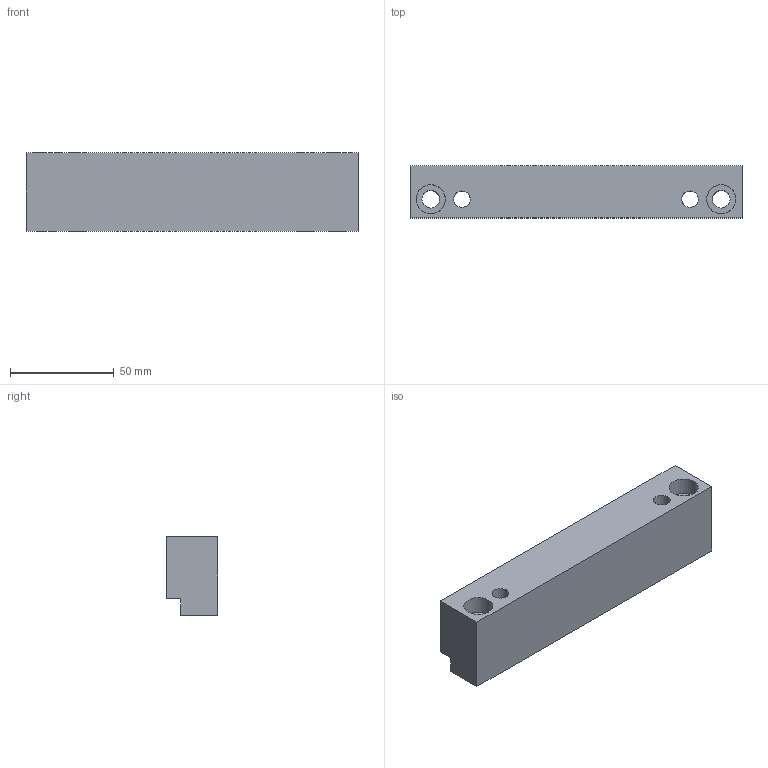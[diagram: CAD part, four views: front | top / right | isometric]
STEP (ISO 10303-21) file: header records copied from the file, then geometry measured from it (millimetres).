
FILE_DESCRIPTION(('CATIA V5 STEP Exchange'),'2;1');
FILE_NAME('C:\Users\Utente\Desktop\3D files G406\G40638160.stp','2020-04-22T11:26:49+00:00',('none'),('none'),'CATIA Version 5 Release 20 GA (IN-10)','CATIA V5 STEP AP203','none');
FILE_SCHEMA(('CONFIG_CONTROL_DESIGN'));
Length unit declared in the file: millimetre
Products named in the file (1): G40638160
Bounding box: 160 x 25 x 38 mm (x, y, z)
Surface area: 31067.1 mm2 (no closed solid volume)
Topology: 0 solids, 588 shells, 588 faces, 2470 edges, 2184 vertices
Faces by surface type: revolution 316, cylinder 200, plane 72
Entity records: 27632 total; most frequent: CARTESIAN_POINT 9407, DIRECTION 2878, ORIENTED_EDGE 2184, EDGE_CURVE 2184, VERTEX_POINT 2184, AXIS2_PLACEMENT_3D 1223, VECTOR 1068, LINE 1068
